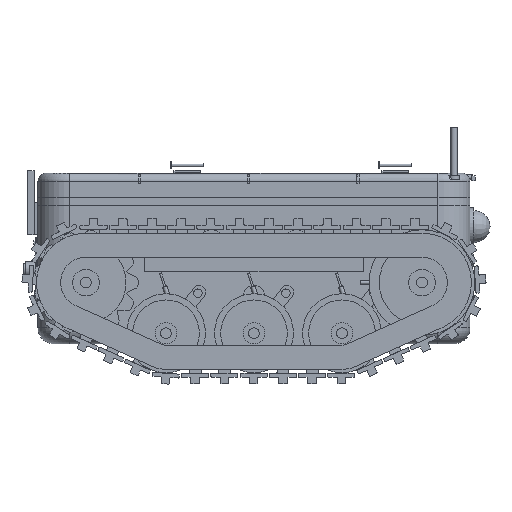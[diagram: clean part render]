
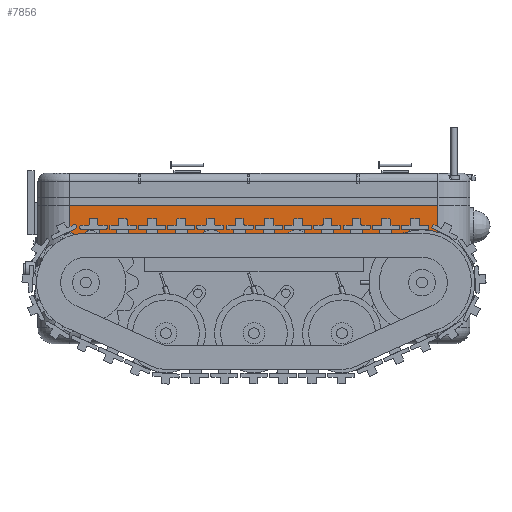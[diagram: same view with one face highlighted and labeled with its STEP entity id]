
A CAD part, front view. The second image highlights one B-rep face of the part: STEP entity #7856.
In plain terms, the highlighted planar face has unit normal (0, -1, 0).
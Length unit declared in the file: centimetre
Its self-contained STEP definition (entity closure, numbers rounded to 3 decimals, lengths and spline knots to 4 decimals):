
#6566 = CYLINDRICAL_SURFACE('',#6567,12.);
#6567 = AXIS2_PLACEMENT_3D('',#6568,#6569,#6570);
#6568 = CARTESIAN_POINT('',(16.,-51.,15.));
#6569 = DIRECTION('',(0.,0.,1.));
#6570 = DIRECTION('',(-1.,-0.,0.));
#6593 = PLANE('',#6594);
#6594 = AXIS2_PLACEMENT_3D('',#6595,#6596,#6597);
#6595 = CARTESIAN_POINT('',(0.,-70.,43.));
#6596 = DIRECTION('',(0.,0.,1.));
#6597 = DIRECTION('',(1.,0.,0.));
#6750 = PLANE('',#6751);
#6751 = AXIS2_PLACEMENT_3D('',#6752,#6753,#6754);
#6752 = CARTESIAN_POINT('',(4.,-63.,67.));
#6753 = DIRECTION('',(0.,0.,1.));
#6754 = DIRECTION('',(1.,0.,0.));
#6767 = VERTEX_POINT('',#6768);
#6768 = CARTESIAN_POINT('',(16.,-63.,43.));
#6790 = EDGE_CURVE('',#6767,#6791,#6793,.T.);
#6791 = VERTEX_POINT('',#6792);
#6792 = CARTESIAN_POINT('',(16.,-63.,67.));
#6793 = SURFACE_CURVE('',#6794,(#6798,#6805),.PCURVE_S1.);
#6794 = LINE('',#6795,#6796);
#6795 = CARTESIAN_POINT('',(16.,-63.,15.));
#6796 = VECTOR('',#6797,0.1);
#6797 = DIRECTION('',(0.,0.,1.));
#6798 = PCURVE('',#6566,#6799);
#6799 = DEFINITIONAL_REPRESENTATION('',(#6800),#6804);
#6800 = LINE('',#6801,#6802);
#6801 = CARTESIAN_POINT('',(1.571,0.));
#6802 = VECTOR('',#6803,1.);
#6803 = DIRECTION('',(0.,1.));
#6804 = ( GEOMETRIC_REPRESENTATION_CONTEXT(2) 
PARAMETRIC_REPRESENTATION_CONTEXT() REPRESENTATION_CONTEXT('2D SPACE',''
  ) );
#6805 = PCURVE('',#6806,#6811);
#6806 = PLANE('',#6807);
#6807 = AXIS2_PLACEMENT_3D('',#6808,#6809,#6810);
#6808 = CARTESIAN_POINT('',(4.,-63.,15.));
#6809 = DIRECTION('',(0.,1.,0.));
#6810 = DIRECTION('',(0.,0.,1.));
#6811 = DEFINITIONAL_REPRESENTATION('',(#6812),#6816);
#6812 = LINE('',#6813,#6814);
#6813 = CARTESIAN_POINT('',(0.,12.));
#6814 = VECTOR('',#6815,1.);
#6815 = DIRECTION('',(1.,0.));
#6816 = ( GEOMETRIC_REPRESENTATION_CONTEXT(2) 
PARAMETRIC_REPRESENTATION_CONTEXT() REPRESENTATION_CONTEXT('2D SPACE',''
  ) );
#6845 = EDGE_CURVE('',#6791,#6846,#6848,.T.);
#6846 = VERTEX_POINT('',#6847);
#6847 = CARTESIAN_POINT('',(154.,-63.,67.));
#6848 = SURFACE_CURVE('',#6849,(#6853,#6860),.PCURVE_S1.);
#6849 = LINE('',#6850,#6851);
#6850 = CARTESIAN_POINT('',(4.,-63.,67.));
#6851 = VECTOR('',#6852,0.1);
#6852 = DIRECTION('',(1.,0.,0.));
#6853 = PCURVE('',#6750,#6854);
#6854 = DEFINITIONAL_REPRESENTATION('',(#6855),#6859);
#6855 = LINE('',#6856,#6857);
#6856 = CARTESIAN_POINT('',(0.,0.));
#6857 = VECTOR('',#6858,1.);
#6858 = DIRECTION('',(1.,0.));
#6859 = ( GEOMETRIC_REPRESENTATION_CONTEXT(2) 
PARAMETRIC_REPRESENTATION_CONTEXT() REPRESENTATION_CONTEXT('2D SPACE',''
  ) );
#6860 = PCURVE('',#6806,#6861);
#6861 = DEFINITIONAL_REPRESENTATION('',(#6862),#6866);
#6862 = LINE('',#6863,#6864);
#6863 = CARTESIAN_POINT('',(52.,0.));
#6864 = VECTOR('',#6865,1.);
#6865 = DIRECTION('',(0.,1.));
#6866 = ( GEOMETRIC_REPRESENTATION_CONTEXT(2) 
PARAMETRIC_REPRESENTATION_CONTEXT() REPRESENTATION_CONTEXT('2D SPACE',''
  ) );
#6889 = CYLINDRICAL_SURFACE('',#6890,12.);
#6890 = AXIS2_PLACEMENT_3D('',#6891,#6892,#6893);
#6891 = CARTESIAN_POINT('',(154.,-51.,15.));
#6892 = DIRECTION('',(0.,0.,1.));
#6893 = DIRECTION('',(1.,0.,-0.));
#7656 = EDGE_CURVE('',#6767,#7657,#7659,.T.);
#7657 = VERTEX_POINT('',#7658);
#7658 = CARTESIAN_POINT('',(154.,-63.,43.));
#7659 = SURFACE_CURVE('',#7660,(#7664,#7670),.PCURVE_S1.);
#7660 = LINE('',#7661,#7662);
#7661 = CARTESIAN_POINT('',(2.,-63.,43.));
#7662 = VECTOR('',#7663,0.1);
#7663 = DIRECTION('',(1.,0.,0.));
#7664 = PCURVE('',#6593,#7665);
#7665 = DEFINITIONAL_REPRESENTATION('',(#7666),#7669);
#7666 = B_SPLINE_CURVE_WITH_KNOTS('',1,(#7667,#7668),.UNSPECIFIED.,.F.,
  .F.,(2,2),(140.,1520.),.PIECEWISE_BEZIER_KNOTS.);
#7667 = CARTESIAN_POINT('',(16.,7.));
#7668 = CARTESIAN_POINT('',(154.,7.));
#7669 = ( GEOMETRIC_REPRESENTATION_CONTEXT(2) 
PARAMETRIC_REPRESENTATION_CONTEXT() REPRESENTATION_CONTEXT('2D SPACE',''
  ) );
#7670 = PCURVE('',#6806,#7671);
#7671 = DEFINITIONAL_REPRESENTATION('',(#7672),#7675);
#7672 = B_SPLINE_CURVE_WITH_KNOTS('',1,(#7673,#7674),.UNSPECIFIED.,.F.,
  .F.,(2,2),(140.,1520.),.PIECEWISE_BEZIER_KNOTS.);
#7673 = CARTESIAN_POINT('',(28.,12.));
#7674 = CARTESIAN_POINT('',(28.,150.));
#7675 = ( GEOMETRIC_REPRESENTATION_CONTEXT(2) 
PARAMETRIC_REPRESENTATION_CONTEXT() REPRESENTATION_CONTEXT('2D SPACE',''
  ) );
#7856 = ADVANCED_FACE('',(#7857),#6806,.F.);
#7857 = FACE_BOUND('',#7858,.F.);
#7858 = EDGE_LOOP('',(#7859,#7860,#7861,#7862));
#7859 = ORIENTED_EDGE('',*,*,#7656,.F.);
#7860 = ORIENTED_EDGE('',*,*,#6790,.T.);
#7861 = ORIENTED_EDGE('',*,*,#6845,.T.);
#7862 = ORIENTED_EDGE('',*,*,#7863,.F.);
#7863 = EDGE_CURVE('',#7657,#6846,#7864,.T.);
#7864 = SURFACE_CURVE('',#7865,(#7869,#7876),.PCURVE_S1.);
#7865 = LINE('',#7866,#7867);
#7866 = CARTESIAN_POINT('',(154.,-63.,15.));
#7867 = VECTOR('',#7868,0.1);
#7868 = DIRECTION('',(0.,0.,1.));
#7869 = PCURVE('',#6806,#7870);
#7870 = DEFINITIONAL_REPRESENTATION('',(#7871),#7875);
#7871 = LINE('',#7872,#7873);
#7872 = CARTESIAN_POINT('',(0.,150.));
#7873 = VECTOR('',#7874,1.);
#7874 = DIRECTION('',(1.,0.));
#7875 = ( GEOMETRIC_REPRESENTATION_CONTEXT(2) 
PARAMETRIC_REPRESENTATION_CONTEXT() REPRESENTATION_CONTEXT('2D SPACE',''
  ) );
#7876 = PCURVE('',#6889,#7877);
#7877 = DEFINITIONAL_REPRESENTATION('',(#7878),#7882);
#7878 = LINE('',#7879,#7880);
#7879 = CARTESIAN_POINT('',(-1.571,0.));
#7880 = VECTOR('',#7881,1.);
#7881 = DIRECTION('',(-0.,1.));
#7882 = ( GEOMETRIC_REPRESENTATION_CONTEXT(2) 
PARAMETRIC_REPRESENTATION_CONTEXT() REPRESENTATION_CONTEXT('2D SPACE',''
  ) );
